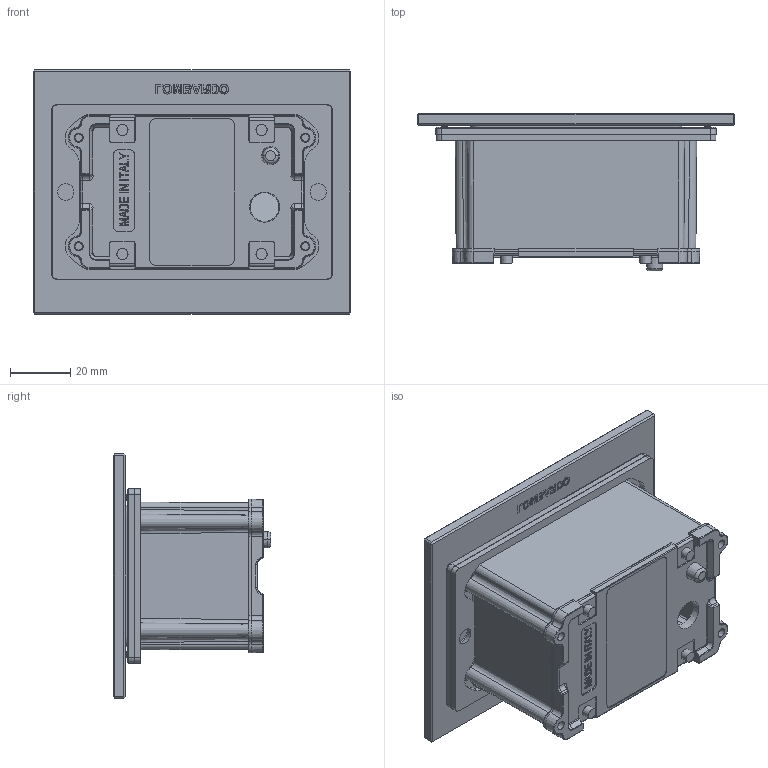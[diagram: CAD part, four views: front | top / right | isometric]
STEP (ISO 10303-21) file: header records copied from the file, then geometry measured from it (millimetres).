
FILE_DESCRIPTION((''),'2;1');
FILE_NAME('ASIMMETRICO-NEW_SW0002','2025-05-23T11:41:14',('elena.baldelli'),(''),'CREO PARAMETRIC BY PTC INC, 2020354','CREO PARAMETRIC BY PTC INC, 2020354','');
FILE_SCHEMA(('CONFIG_CONTROL_DESIGN'));
Length unit declared in the file: millimetre
Products named in the file (1): ASIMMETRICO-NEW_SW0002
Bounding box: 105 x 52.1 x 81 mm (x, y, z)
Surface area: 62614.1 mm2 (no closed solid volume)
Topology: 0 solids, 22 shells, 883 faces, 2523 edges, 1685 vertices
Faces by surface type: plane 377, cylinder 156, cone 145, bspline 106, torus 73, extrusion 19, sphere 7
Entity records: 40262 total; most frequent: CARTESIAN_POINT 18260, ORIENTED_EDGE 4633, DIRECTION 4202, EDGE_CURVE 2512, VERTEX_POINT 1685, AXIS2_PLACEMENT_3D 1403, VECTOR 1396, LINE 1377
